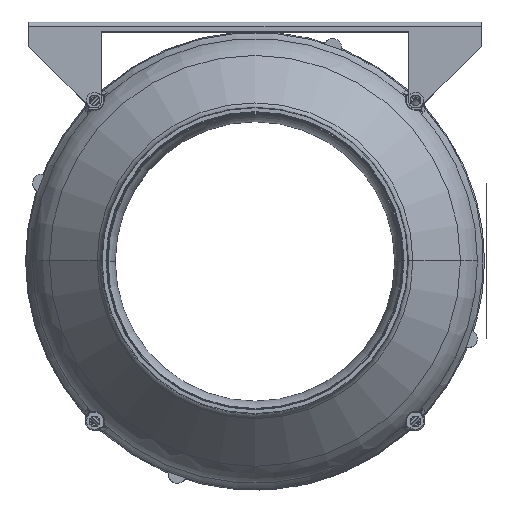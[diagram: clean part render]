
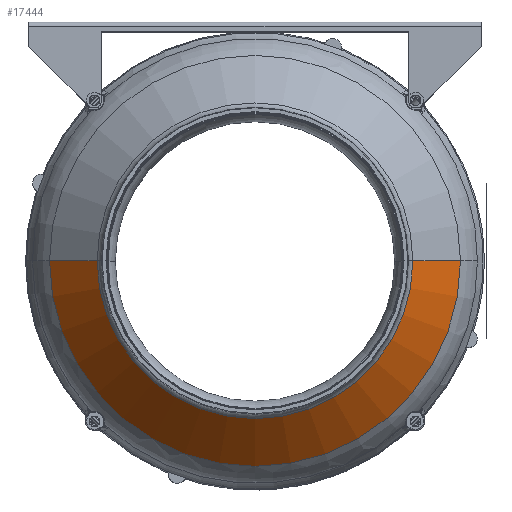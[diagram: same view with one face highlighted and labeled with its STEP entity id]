
A CAD part, top view. The second image highlights one B-rep face of the part: STEP entity #17444.
In plain terms, the highlighted conical face has half-angle 42.963 degrees and reference radius 106.643 mm.
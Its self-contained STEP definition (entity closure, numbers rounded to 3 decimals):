
#700 = CARTESIAN_POINT ( 'NONE',  ( 0., 0., 85.788 ) ) ;
#701 = DIRECTION ( 'NONE',  ( 0., 0., -1. ) ) ;
#705 = DIRECTION ( 'NONE',  ( -1., 0., 0. ) ) ;
#2124 = CARTESIAN_POINT ( 'NONE',  ( -81.929, 0., 112.325 ) ) ;
#2177 = CARTESIAN_POINT ( 'NONE',  ( 106.643, 0., 85.788 ) ) ;
#2212 = DIRECTION ( 'NONE',  ( 0.682, 0., -0.732 ) ) ;
#2810 = EDGE_LOOP ( 'NONE', ( #6019, #5543, #20355, #5814 ) ) ;
#5174 = AXIS2_PLACEMENT_3D ( 'NONE', #14289, #14292, #14286 ) ;
#5543 = ORIENTED_EDGE ( 'NONE', *, *, #17130, .F. ) ;
#5814 = ORIENTED_EDGE ( 'NONE', *, *, #19354, .T. ) ;
#6019 = ORIENTED_EDGE ( 'NONE', *, *, #10203, .F. ) ;
#10045 = AXIS2_PLACEMENT_3D ( 'NONE', #700, #701, #705 ) ;
#10203 = EDGE_CURVE ( 'NONE', #12526, #20661, #16742, .T. ) ;
#12092 = VERTEX_POINT ( 'NONE', #2124 ) ;
#12488 = CARTESIAN_POINT ( 'NONE',  ( 0., 0., 85.788 ) ) ;
#12490 = DIRECTION ( 'NONE',  ( 0., 0., 1. ) ) ;
#12492 = DIRECTION ( 'NONE',  ( 1., 0., 0. ) ) ;
#12526 = VERTEX_POINT ( 'NONE', #14930 ) ;
#12727 = VERTEX_POINT ( 'NONE', #15138 ) ;
#13288 = CARTESIAN_POINT ( 'NONE',  ( 106.643, 0., 85.788 ) ) ;
#14088 = CARTESIAN_POINT ( 'NONE',  ( -106.643, 0., 85.788 ) ) ;
#14139 = DIRECTION ( 'NONE',  ( -0.682, 0., -0.732 ) ) ;
#14286 = DIRECTION ( 'NONE',  ( 1., 0., 0. ) ) ;
#14289 = CARTESIAN_POINT ( 'NONE',  ( 0., 0., 112.325 ) ) ;
#14292 = DIRECTION ( 'NONE',  ( 0., 0., 1. ) ) ;
#14930 = CARTESIAN_POINT ( 'NONE',  ( 81.929, 0., 112.325 ) ) ;
#15138 = CARTESIAN_POINT ( 'NONE',  ( -106.643, 0., 85.788 ) ) ;
#15775 = CONICAL_SURFACE ( 'NONE', #10045, 106.643, 0.75 ) ;
#15785 = FACE_OUTER_BOUND ( 'NONE', #2810, .T. ) ;
#16410 = VECTOR ( 'NONE', #14139, 1000. ) ;
#16412 = CIRCLE ( 'NONE', #5174, 81.929 ) ;
#16425 = LINE ( 'NONE', #14088, #16410 ) ;
#16740 = VECTOR ( 'NONE', #2212, 1000. ) ;
#16742 = LINE ( 'NONE', #2177, #16740 ) ;
#17128 = EDGE_CURVE ( 'NONE', #12092, #12727, #16425, .T. ) ;
#17130 = EDGE_CURVE ( 'NONE', #12092, #12526, #16412, .T. ) ;
#17444 = ADVANCED_FACE ( 'NONE', ( #15785 ), #15775, .T. ) ;
#18142 = CIRCLE ( 'NONE', #20574, 106.643 ) ;
#19354 = EDGE_CURVE ( 'NONE', #12727, #20661, #18142, .T. ) ;
#20355 = ORIENTED_EDGE ( 'NONE', *, *, #17128, .T. ) ;
#20574 = AXIS2_PLACEMENT_3D ( 'NONE', #12488, #12490, #12492 ) ;
#20661 = VERTEX_POINT ( 'NONE', #13288 ) ;
